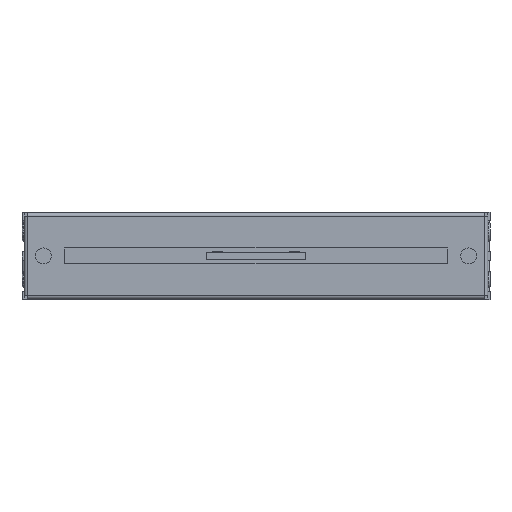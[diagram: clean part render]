
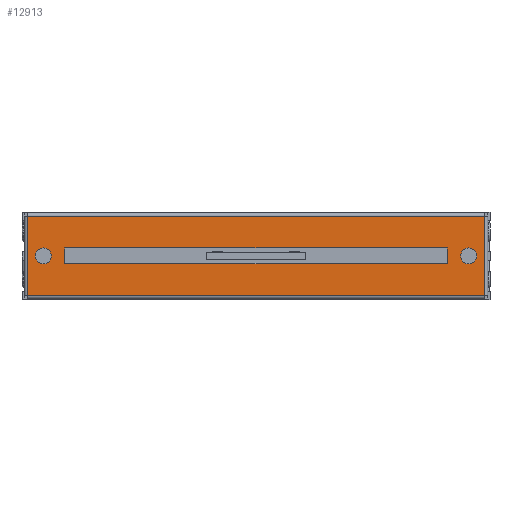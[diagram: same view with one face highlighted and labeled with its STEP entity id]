
A CAD part, top view. The second image highlights one B-rep face of the part: STEP entity #12913.
In plain terms, the highlighted planar face has unit normal (0, 0, 1).
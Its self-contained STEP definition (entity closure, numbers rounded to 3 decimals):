
#8379 = VERTEX_POINT('',#8380);
#8380 = CARTESIAN_POINT('',(-43.,-7.5,0.));
#8389 = VERTEX_POINT('',#8390);
#8390 = CARTESIAN_POINT('',(43.,-7.5,0.));
#8397 = EDGE_CURVE('',#8379,#8389,#8398,.T.);
#8398 = LINE('',#8399,#8400);
#8399 = CARTESIAN_POINT('',(-43.,-7.5,0.));
#8400 = VECTOR('',#8401,1.);
#8401 = DIRECTION('',(1.,0.,0.));
#11013 = VERTEX_POINT('',#11014);
#11014 = CARTESIAN_POINT('',(-43.,7.5,0.));
#11021 = EDGE_CURVE('',#11013,#11022,#11024,.T.);
#11022 = VERTEX_POINT('',#11023);
#11023 = CARTESIAN_POINT('',(43.,7.5,0.));
#11024 = LINE('',#11025,#11026);
#11025 = CARTESIAN_POINT('',(-43.,7.5,0.));
#11026 = VECTOR('',#11027,1.);
#11027 = DIRECTION('',(1.,0.,0.));
#12913 = ADVANCED_FACE('',(#12914,#12930,#12941,#12975),#12986,.T.);
#12914 = FACE_BOUND('',#12915,.T.);
#12915 = EDGE_LOOP('',(#12916,#12917,#12923,#12924));
#12916 = ORIENTED_EDGE('',*,*,#11021,.F.);
#12917 = ORIENTED_EDGE('',*,*,#12918,.T.);
#12918 = EDGE_CURVE('',#11013,#8379,#12919,.T.);
#12919 = LINE('',#12920,#12921);
#12920 = CARTESIAN_POINT('',(-43.,7.5,0.));
#12921 = VECTOR('',#12922,1.);
#12922 = DIRECTION('',(0.,-1.,0.));
#12923 = ORIENTED_EDGE('',*,*,#8397,.T.);
#12924 = ORIENTED_EDGE('',*,*,#12925,.F.);
#12925 = EDGE_CURVE('',#11022,#8389,#12926,.T.);
#12926 = LINE('',#12927,#12928);
#12927 = CARTESIAN_POINT('',(43.,7.5,0.));
#12928 = VECTOR('',#12929,1.);
#12929 = DIRECTION('',(0.,-1.,0.));
#12930 = FACE_BOUND('',#12931,.T.);
#12931 = EDGE_LOOP('',(#12932));
#12932 = ORIENTED_EDGE('',*,*,#12933,.T.);
#12933 = EDGE_CURVE('',#12934,#12934,#12936,.T.);
#12934 = VERTEX_POINT('',#12935);
#12935 = CARTESIAN_POINT('',(-38.5,0.,0.));
#12936 = CIRCLE('',#12937,1.5);
#12937 = AXIS2_PLACEMENT_3D('',#12938,#12939,#12940);
#12938 = CARTESIAN_POINT('',(-40.,0.,0.));
#12939 = DIRECTION('',(0.,0.,-1.));
#12940 = DIRECTION('',(1.,0.,0.));
#12941 = FACE_BOUND('',#12942,.T.);
#12942 = EDGE_LOOP('',(#12943,#12953,#12961,#12969));
#12943 = ORIENTED_EDGE('',*,*,#12944,.T.);
#12944 = EDGE_CURVE('',#12945,#12947,#12949,.T.);
#12945 = VERTEX_POINT('',#12946);
#12946 = CARTESIAN_POINT('',(36.,-1.5,0.));
#12947 = VERTEX_POINT('',#12948);
#12948 = CARTESIAN_POINT('',(-36.,-1.5,0.));
#12949 = LINE('',#12950,#12951);
#12950 = CARTESIAN_POINT('',(-39.8,-1.5,0.));
#12951 = VECTOR('',#12952,1.);
#12952 = DIRECTION('',(-1.,0.,0.));
#12953 = ORIENTED_EDGE('',*,*,#12954,.T.);
#12954 = EDGE_CURVE('',#12947,#12955,#12957,.T.);
#12955 = VERTEX_POINT('',#12956);
#12956 = CARTESIAN_POINT('',(-36.,1.5,0.));
#12957 = LINE('',#12958,#12959);
#12958 = CARTESIAN_POINT('',(-36.,3.3,0.));
#12959 = VECTOR('',#12960,1.);
#12960 = DIRECTION('',(0.,1.,0.));
#12961 = ORIENTED_EDGE('',*,*,#12962,.F.);
#12962 = EDGE_CURVE('',#12963,#12955,#12965,.T.);
#12963 = VERTEX_POINT('',#12964);
#12964 = CARTESIAN_POINT('',(36.,1.5,0.));
#12965 = LINE('',#12966,#12967);
#12966 = CARTESIAN_POINT('',(-39.8,1.5,0.));
#12967 = VECTOR('',#12968,1.);
#12968 = DIRECTION('',(-1.,0.,0.));
#12969 = ORIENTED_EDGE('',*,*,#12970,.F.);
#12970 = EDGE_CURVE('',#12945,#12963,#12971,.T.);
#12971 = LINE('',#12972,#12973);
#12972 = CARTESIAN_POINT('',(36.,3.3,0.));
#12973 = VECTOR('',#12974,1.);
#12974 = DIRECTION('',(0.,1.,0.));
#12975 = FACE_BOUND('',#12976,.T.);
#12976 = EDGE_LOOP('',(#12977));
#12977 = ORIENTED_EDGE('',*,*,#12978,.T.);
#12978 = EDGE_CURVE('',#12979,#12979,#12981,.T.);
#12979 = VERTEX_POINT('',#12980);
#12980 = CARTESIAN_POINT('',(38.5,0.,0.));
#12981 = CIRCLE('',#12982,1.5);
#12982 = AXIS2_PLACEMENT_3D('',#12983,#12984,#12985);
#12983 = CARTESIAN_POINT('',(40.,0.,0.));
#12984 = DIRECTION('',(0.,0.,-1.));
#12985 = DIRECTION('',(-1.,0.,-0.));
#12986 = PLANE('',#12987);
#12987 = AXIS2_PLACEMENT_3D('',#12988,#12989,#12990);
#12988 = CARTESIAN_POINT('',(-43.6,8.1,0.));
#12989 = DIRECTION('',(0.,0.,1.));
#12990 = DIRECTION('',(1.,0.,0.));
